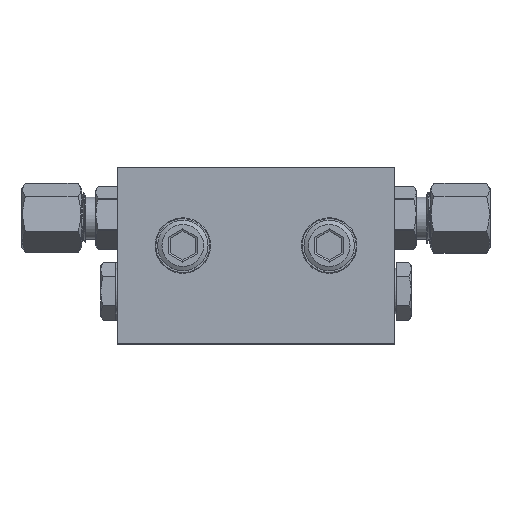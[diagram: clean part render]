
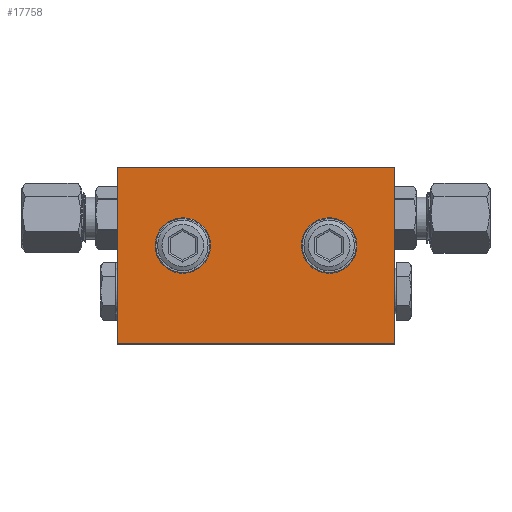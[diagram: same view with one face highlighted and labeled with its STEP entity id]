
A CAD part, top view. The second image highlights one B-rep face of the part: STEP entity #17758.
In plain terms, the highlighted planar face has unit normal (0, 0, 1) as drawn and (0, 0, -1) by its records, which use the part's own axes.
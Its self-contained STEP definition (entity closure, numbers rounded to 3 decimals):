
#313 = VERTEX_POINT ( 'NONE', #41383 ) ;
#617 = VERTEX_POINT ( 'NONE', #37155 ) ;
#995 = PLANE ( 'NONE',  #18715 ) ;
#1095 = EDGE_LOOP ( 'NONE', ( #5171 ) ) ;
#1406 = LINE ( 'NONE', #25118, #14764 ) ;
#1883 = ORIENTED_EDGE ( 'NONE', *, *, #17577, .F. ) ;
#3512 = DIRECTION ( 'NONE',  ( -1., 0., 0. ) ) ;
#3567 = CIRCLE ( 'NONE', #21939, 3.1 ) ;
#4218 = DIRECTION ( 'NONE',  ( 1., 0., 0. ) ) ;
#4311 = ORIENTED_EDGE ( 'NONE', *, *, #39968, .F. ) ;
#4342 = FACE_BOUND ( 'NONE', #1095, .T. ) ;
#5171 = ORIENTED_EDGE ( 'NONE', *, *, #9346, .F. ) ;
#5289 = VECTOR ( 'NONE', #8257, 1000. ) ;
#5650 = CARTESIAN_POINT ( 'NONE',  ( -27.5, 0., -4.85 ) ) ;
#7513 = CARTESIAN_POINT ( 'NONE',  ( -14.5, -15.5, -4.85 ) ) ;
#8076 = FACE_BOUND ( 'NONE', #33894, .T. ) ;
#8257 = DIRECTION ( 'NONE',  ( 0., 1., 0. ) ) ;
#8706 = DIRECTION ( 'NONE',  ( -1., 0., 0. ) ) ;
#9346 = EDGE_CURVE ( 'NONE', #26013, #26013, #3567, .T. ) ;
#10355 = VERTEX_POINT ( 'NONE', #25296 ) ;
#10918 = AXIS2_PLACEMENT_3D ( 'NONE', #20989, #33826, #3512 ) ;
#11400 = FACE_OUTER_BOUND ( 'NONE', #19773, .T. ) ;
#14764 = VECTOR ( 'NONE', #8706, 1000. ) ;
#17463 = EDGE_CURVE ( 'NONE', #27549, #27549, #31430, .T. ) ;
#17577 = EDGE_CURVE ( 'NONE', #617, #21904, #22316, .T. ) ;
#17758 = ADVANCED_FACE ( 'NONE', ( #4342, #8076, #11400 ), #995, .F. ) ;
#18715 = AXIS2_PLACEMENT_3D ( 'NONE', #24908, #38171, #41495 ) ;
#18893 = ORIENTED_EDGE ( 'NONE', *, *, #43300, .F. ) ;
#18960 = DIRECTION ( 'NONE',  ( 1., 0., 0. ) ) ;
#19250 = VECTOR ( 'NONE', #32643, 1000. ) ;
#19610 = CARTESIAN_POINT ( 'NONE',  ( -11.4, -15.5, -4.85 ) ) ;
#19773 = EDGE_LOOP ( 'NONE', ( #1883, #4311, #41632, #18893 ) ) ;
#20989 = CARTESIAN_POINT ( 'NONE',  ( 14.5, -15.5, -4.85 ) ) ;
#21534 = CARTESIAN_POINT ( 'NONE',  ( 27.5, -35., -4.85 ) ) ;
#21904 = VERTEX_POINT ( 'NONE', #21534 ) ;
#21939 = AXIS2_PLACEMENT_3D ( 'NONE', #7513, #41139, #4218 ) ;
#22316 = LINE ( 'NONE', #22978, #25091 ) ;
#22978 = CARTESIAN_POINT ( 'NONE',  ( 0., -35., -4.85 ) ) ;
#24908 = CARTESIAN_POINT ( 'NONE',  ( 0., 0., -4.85 ) ) ;
#25091 = VECTOR ( 'NONE', #18960, 1000. ) ;
#25104 = LINE ( 'NONE', #38582, #5289 ) ;
#25118 = CARTESIAN_POINT ( 'NONE',  ( 0., 0., -4.85 ) ) ;
#25296 = CARTESIAN_POINT ( 'NONE',  ( -27.5, 0., -4.85 ) ) ;
#26013 = VERTEX_POINT ( 'NONE', #19610 ) ;
#27328 = CARTESIAN_POINT ( 'NONE',  ( 11.4, -15.5, -4.85 ) ) ;
#27540 = ORIENTED_EDGE ( 'NONE', *, *, #17463, .F. ) ;
#27549 = VERTEX_POINT ( 'NONE', #27328 ) ;
#31430 = CIRCLE ( 'NONE', #10918, 3.1 ) ;
#32022 = EDGE_CURVE ( 'NONE', #313, #10355, #1406, .T. ) ;
#32643 = DIRECTION ( 'NONE',  ( 0., -1., 0. ) ) ;
#33826 = DIRECTION ( 'NONE',  ( 0., 0., -1. ) ) ;
#33894 = EDGE_LOOP ( 'NONE', ( #27540 ) ) ;
#36424 = LINE ( 'NONE', #5650, #19250 ) ;
#37155 = CARTESIAN_POINT ( 'NONE',  ( -27.5, -35., -4.85 ) ) ;
#38171 = DIRECTION ( 'NONE',  ( 0., 0., 1. ) ) ;
#38582 = CARTESIAN_POINT ( 'NONE',  ( 27.5, 0., -4.85 ) ) ;
#39968 = EDGE_CURVE ( 'NONE', #10355, #617, #36424, .T. ) ;
#41139 = DIRECTION ( 'NONE',  ( 0., 0., -1. ) ) ;
#41383 = CARTESIAN_POINT ( 'NONE',  ( 27.5, 0., -4.85 ) ) ;
#41495 = DIRECTION ( 'NONE',  ( 1., 0., 0. ) ) ;
#41632 = ORIENTED_EDGE ( 'NONE', *, *, #32022, .F. ) ;
#43300 = EDGE_CURVE ( 'NONE', #21904, #313, #25104, .T. ) ;
